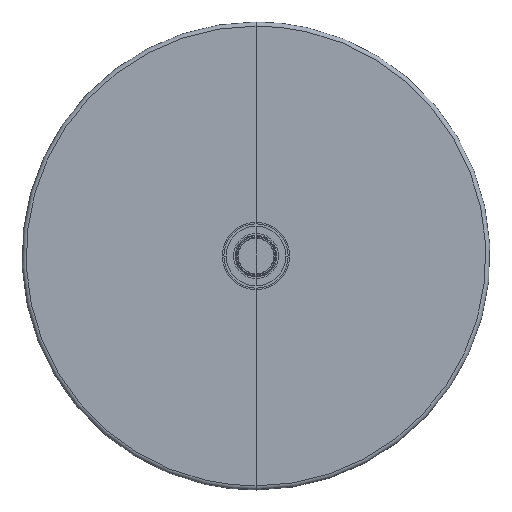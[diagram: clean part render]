
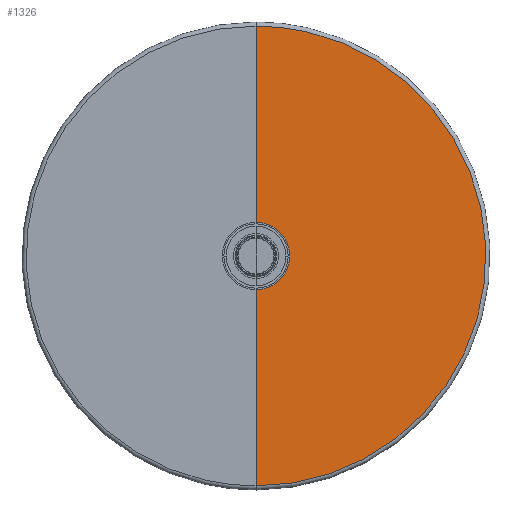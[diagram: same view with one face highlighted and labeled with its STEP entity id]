
A CAD part, top view. The second image highlights one B-rep face of the part: STEP entity #1326.
In plain terms, the highlighted planar face has unit normal (0, 0, 1).
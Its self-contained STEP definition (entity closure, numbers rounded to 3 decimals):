
#60=PLANE('',#1500);
#97=B_SPLINE_CURVE_WITH_KNOTS('',3,(#3416,#3417,#3418,#3419,#3420,#3421,
#3422,#3423,#3424,#3425,#3426,#3427,#3428,#3429,#3430,#3431,#3432),
 .UNSPECIFIED.,.F.,.F.,(4,1,1,1,1,1,1,1,1,1,1,1,1,1,4),(0.,0.071,
0.143,0.214,0.286,0.357,
0.429,0.5,0.571,0.643,0.714,
0.786,0.857,0.929,1.),.UNSPECIFIED.);
#194=FACE_OUTER_BOUND('',#282,.T.);
#282=EDGE_LOOP('',(#1196,#1197,#1198,#1199));
#364=CIRCLE('',#1491,32.393);
#438=LINE('',#3624,#510);
#439=LINE('',#3625,#511);
#510=VECTOR('',#1911,304.8);
#511=VECTOR('',#1912,304.8);
#614=VERTEX_POINT('',#3190);
#615=VERTEX_POINT('',#3191);
#620=VERTEX_POINT('',#3242);
#621=VERTEX_POINT('',#3415);
#800=EDGE_CURVE('',#614,#615,#364,.T.);
#811=EDGE_CURVE('',#621,#620,#97,.T.);
#814=EDGE_CURVE('',#614,#620,#438,.T.);
#815=EDGE_CURVE('',#621,#615,#439,.T.);
#1196=ORIENTED_EDGE('',*,*,#811,.T.);
#1197=ORIENTED_EDGE('',*,*,#814,.F.);
#1198=ORIENTED_EDGE('',*,*,#800,.T.);
#1199=ORIENTED_EDGE('',*,*,#815,.F.);
#1326=ADVANCED_FACE('',(#194),#60,.F.);
#1491=AXIS2_PLACEMENT_3D('',#3192,#1887,#1888);
#1500=AXIS2_PLACEMENT_3D('',#3623,#1909,#1910);
#1887=DIRECTION('center_axis',(0.,0.,-1.));
#1888=DIRECTION('ref_axis',(0.,-1.,0.));
#1909=DIRECTION('center_axis',(0.,0.,-1.));
#1910=DIRECTION('ref_axis',(0.,-1.,0.));
#1911=DIRECTION('',(0.,1.,0.));
#1912=DIRECTION('',(0.,1.,0.));
#3190=CARTESIAN_POINT('',(0.,32.393,149.589));
#3191=CARTESIAN_POINT('',(0.,-32.393,149.589));
#3192=CARTESIAN_POINT('Origin',(0.,0.,
149.589));
#3242=CARTESIAN_POINT('',(0.,221.,149.589));
#3415=CARTESIAN_POINT('',(0.,-221.,149.589));
#3416=CARTESIAN_POINT('Ctrl Pts',(0.,-221.,149.589));
#3417=CARTESIAN_POINT('Ctrl Pts',(16.538,-221.033,149.589));
#3418=CARTESIAN_POINT('Ctrl Pts',(49.588,-217.26,149.589));
#3419=CARTESIAN_POINT('Ctrl Pts',(96.697,-200.796,149.589));
#3420=CARTESIAN_POINT('Ctrl Pts',(138.952,-174.24,149.589));
#3421=CARTESIAN_POINT('Ctrl Pts',(174.241,-138.953,149.589));
#3422=CARTESIAN_POINT('Ctrl Pts',(200.792,-96.696,149.589));
#3423=CARTESIAN_POINT('Ctrl Pts',(217.275,-49.592,149.589));
#3424=CARTESIAN_POINT('Ctrl Pts',(222.863,0.,
149.589));
#3425=CARTESIAN_POINT('Ctrl Pts',(217.275,49.592,149.589));
#3426=CARTESIAN_POINT('Ctrl Pts',(200.792,96.696,149.589));
#3427=CARTESIAN_POINT('Ctrl Pts',(174.241,138.953,149.589));
#3428=CARTESIAN_POINT('Ctrl Pts',(138.952,174.24,149.589));
#3429=CARTESIAN_POINT('Ctrl Pts',(96.697,200.796,149.589));
#3430=CARTESIAN_POINT('Ctrl Pts',(49.588,217.26,149.589));
#3431=CARTESIAN_POINT('Ctrl Pts',(16.538,221.033,149.589));
#3432=CARTESIAN_POINT('Ctrl Pts',(0.,221.,149.589));
#3623=CARTESIAN_POINT('Origin',(0.,0.,149.589));
#3624=CARTESIAN_POINT('',(0.,32.393,149.589));
#3625=CARTESIAN_POINT('',(0.,-221.,149.589));
